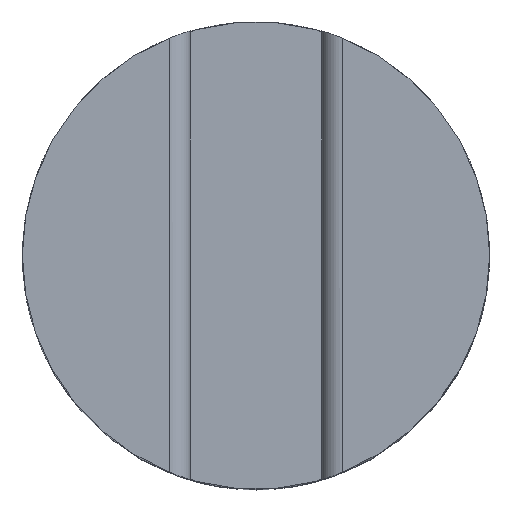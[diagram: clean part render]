
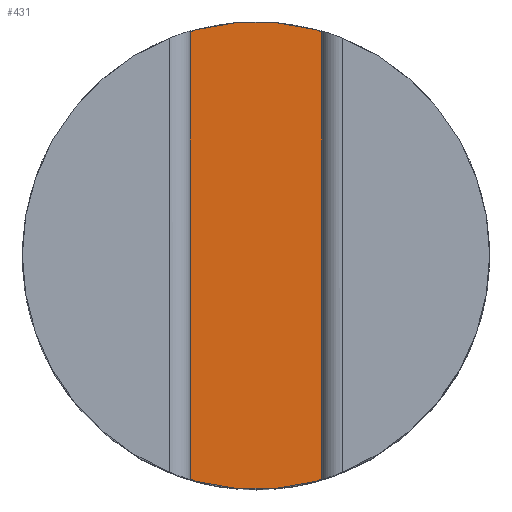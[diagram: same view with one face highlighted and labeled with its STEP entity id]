
A CAD part, top view. The second image highlights one B-rep face of the part: STEP entity #431.
In plain terms, the highlighted planar face has unit normal (0, 0, 1).
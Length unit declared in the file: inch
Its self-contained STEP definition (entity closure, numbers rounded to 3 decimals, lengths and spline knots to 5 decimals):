
#6 = DIRECTION ( 'NONE',  ( 1., 0., 0. ) ) ;
#10 = DIRECTION ( 'NONE',  ( 0., 1., 0. ) ) ;
#77 = CARTESIAN_POINT ( 'NONE',  ( 0., 0., -0.5003 ) ) ;
#110 = VERTEX_POINT ( 'NONE', #169 ) ;
#141 = CIRCLE ( 'NONE', #776, 0.5 ) ;
#169 = CARTESIAN_POINT ( 'NONE',  ( 0.20852, 0.45445, -0.5003 ) ) ;
#201 = VERTEX_POINT ( 'NONE', #733 ) ;
#206 = ORIENTED_EDGE ( 'NONE', *, *, #761, .T. ) ;
#279 = ORIENTED_EDGE ( 'NONE', *, *, #877, .F. ) ;
#312 = CARTESIAN_POINT ( 'NONE',  ( 0., 0., -0.5003 ) ) ;
#314 = CARTESIAN_POINT ( 'NONE',  ( 0.20852, -0.45445, -0.5003 ) ) ;
#319 = AXIS2_PLACEMENT_3D ( 'NONE', #77, #855, #6 ) ;
#339 = CIRCLE ( 'NONE', #319, 0.5 ) ;
#361 = VECTOR ( 'NONE', #879, 39.37008 ) ;
#403 = VERTEX_POINT ( 'NONE', #314 ) ;
#431 = ADVANCED_FACE ( 'NONE', ( #861 ), #607, .F. ) ;
#460 = CARTESIAN_POINT ( 'NONE',  ( 0.20852, 2.08255, -0.5003 ) ) ;
#477 = EDGE_CURVE ( 'NONE', #1005, #110, #339, .T. ) ;
#508 = DIRECTION ( 'NONE',  ( 1., 0., 0. ) ) ;
#509 = DIRECTION ( 'NONE',  ( 0., 0., -1. ) ) ;
#551 = ORIENTED_EDGE ( 'NONE', *, *, #477, .F. ) ;
#552 = LINE ( 'NONE', #786, #950 ) ;
#607 = PLANE ( 'NONE',  #634 ) ;
#634 = AXIS2_PLACEMENT_3D ( 'NONE', #783, #509, #929 ) ;
#669 = DIRECTION ( 'NONE',  ( 0., 0., -1. ) ) ;
#683 = EDGE_CURVE ( 'NONE', #403, #201, #141, .T. ) ;
#733 = CARTESIAN_POINT ( 'NONE',  ( -0.20852, -0.45445, -0.5003 ) ) ;
#761 = EDGE_CURVE ( 'NONE', #403, #110, #1049, .T. ) ;
#776 = AXIS2_PLACEMENT_3D ( 'NONE', #312, #669, #508 ) ;
#783 = CARTESIAN_POINT ( 'NONE',  ( 1.798, 2.34677, -0.5003 ) ) ;
#786 = CARTESIAN_POINT ( 'NONE',  ( -0.20852, 2.34677, -0.5003 ) ) ;
#845 = EDGE_LOOP ( 'NONE', ( #551, #279, #887, #206 ) ) ;
#855 = DIRECTION ( 'NONE',  ( 0., 0., -1. ) ) ;
#861 = FACE_OUTER_BOUND ( 'NONE', #845, .T. ) ;
#877 = EDGE_CURVE ( 'NONE', #201, #1005, #552, .T. ) ;
#879 = DIRECTION ( 'NONE',  ( 0., 1., 0. ) ) ;
#887 = ORIENTED_EDGE ( 'NONE', *, *, #683, .F. ) ;
#929 = DIRECTION ( 'NONE',  ( -1., 0., 0. ) ) ;
#950 = VECTOR ( 'NONE', #10, 39.37008 ) ;
#1005 = VERTEX_POINT ( 'NONE', #1107 ) ;
#1049 = LINE ( 'NONE', #460, #361 ) ;
#1107 = CARTESIAN_POINT ( 'NONE',  ( -0.20852, 0.45445, -0.5003 ) ) ;
